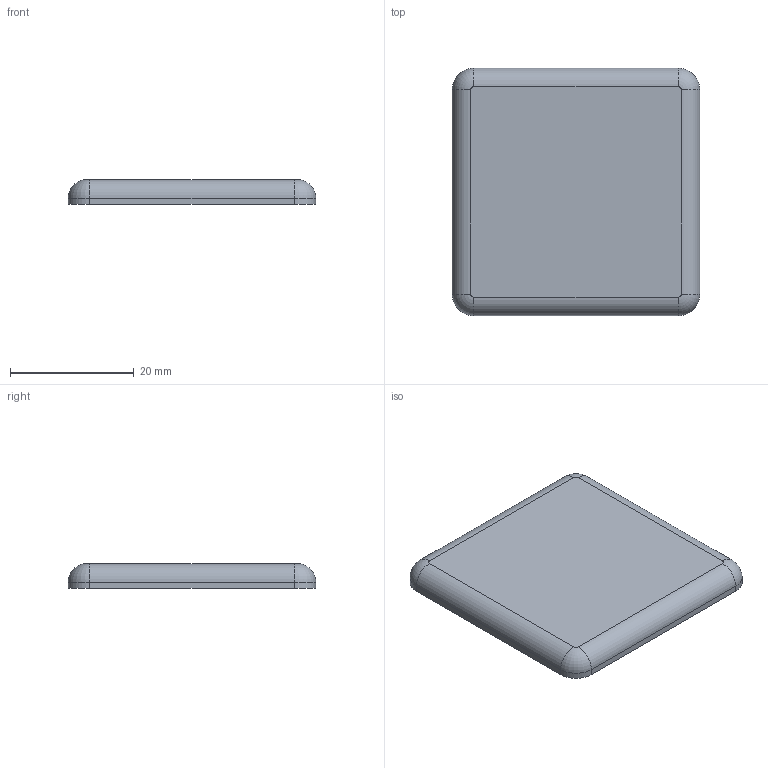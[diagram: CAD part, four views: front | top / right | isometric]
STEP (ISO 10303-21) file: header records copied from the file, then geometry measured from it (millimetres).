
FILE_DESCRIPTION (( 'STEP AP203' ), '1' );
FILE_NAME ('0108AK4040.STEP', '2024-03-07T13:15:48', ( 'Windows-Benutzer' ), ( '' ), 'SwSTEP 2.0', 'SolidWorks 2023', '' );
FILE_SCHEMA (( 'CONFIG_CONTROL_DESIGN' ));
Length unit declared in the file: millimetre
Products named in the file (1): 0108AK4040
Bounding box: 40 x 40 x 4 mm (x, y, z)
Volume: 6068.6 mm3; surface area: 3592.6 mm2
Topology: 1 solids, 1 shells, 18 faces, 40 edges, 24 vertices
Faces by surface type: cylinder 8, plane 6, torus 4
Entity records: 577 total; most frequent: DIRECTION 98, CARTESIAN_POINT 83, ORIENTED_EDGE 80, EDGE_CURVE 40, AXIS2_PLACEMENT_3D 39, VERTEX_POINT 24, CIRCLE 20, VECTOR 20
